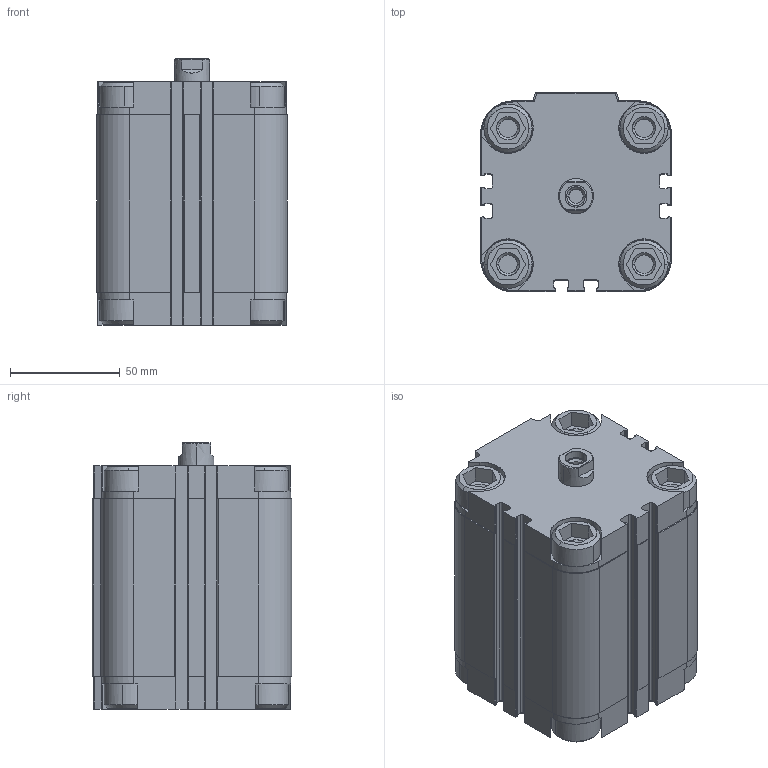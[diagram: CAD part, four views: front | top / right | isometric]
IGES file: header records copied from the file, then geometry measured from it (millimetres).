
Start section: SolidWorks IGES file using analytic representation for surfaces
Global section: file name: K:\Disegni Esecutivi\Cilindri\2_DISEGNI_cilindri_in_produzione\5_Cilindri Compatti\complessivicompatti\QF\QF063\QF063PARTI\QF0630060A.igs; native system: SolidWorks 2011; preprocessor: SolidWorks 2011; author: Cad01; date: 110919.180026; units: millimetre
Bounding box: 87 x 91 x 121.5 mm (x, y, z)
Surface area: 74948.1 mm2 (no closed solid volume)
Topology: 0 solids, 0 shells, 427 faces, 5167 edges, 5163 vertices
Faces by surface type: bspline 222, revolution 205
